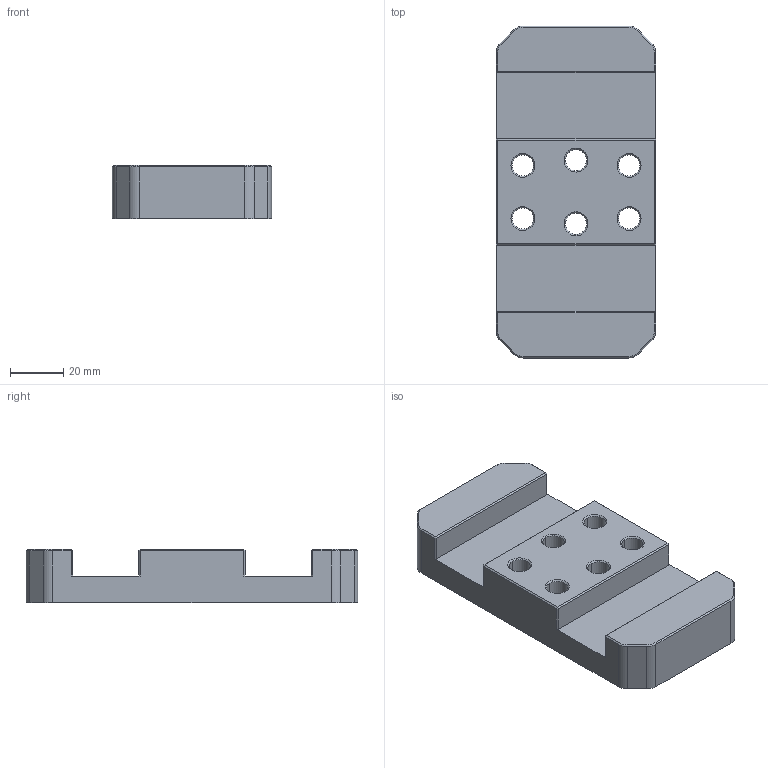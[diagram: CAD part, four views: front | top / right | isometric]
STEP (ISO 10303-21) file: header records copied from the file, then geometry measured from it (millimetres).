
FILE_DESCRIPTION(('CATIA V5 STEP Exchange','CAx-IF Rec.Pracs.--- Model Styling and Organization---1.5--- 2016-08-15','CAx-IF Rec.Pracs.---Supplemental Geometry---1.0---2011-11-01','CAx-IF Rec.Pracs.--- Composite Materials ---3.4---2017-06-13','CAx-IF Rec.Pracs.---Tessellated 3D Geometry---1.0---2015-12-17'),'2;1');
FILE_NAME('D:\Amoozesh\Masterdcam\Mastercam Course\Videos\Session-17\Session-17.stp','2025-05-22T06:45:32+00:00',('none'),('none'),'CATIA Version 5-6 Release 2022 SP6','CATIA V5 STEP AP242 v3','none');
FILE_SCHEMA(('AP242_MANAGED_MODEL_BASED_3D_ENGINEERING_MIM_LF {1 0 10303 442 1 1 4}'));
Length unit declared in the file: millimetre
Products named in the file (1): Part1
Bounding box: 60 x 125 x 20 mm (x, y, z)
Volume: 111232.1 mm3; surface area: 25329.7 mm2
Topology: 1 solids, 1 shells, 90 faces, 220 edges, 132 vertices
Faces by surface type: plane 50, cylinder 20, cone 20
Entity records: 2532 total; most frequent: ORIENTED_EDGE 440, CARTESIAN_POINT 434, DIRECTION 382, EDGE_CURVE 220, VECTOR 160, LINE 160, AXIS2_PLACEMENT_3D 142, VERTEX_POINT 132
